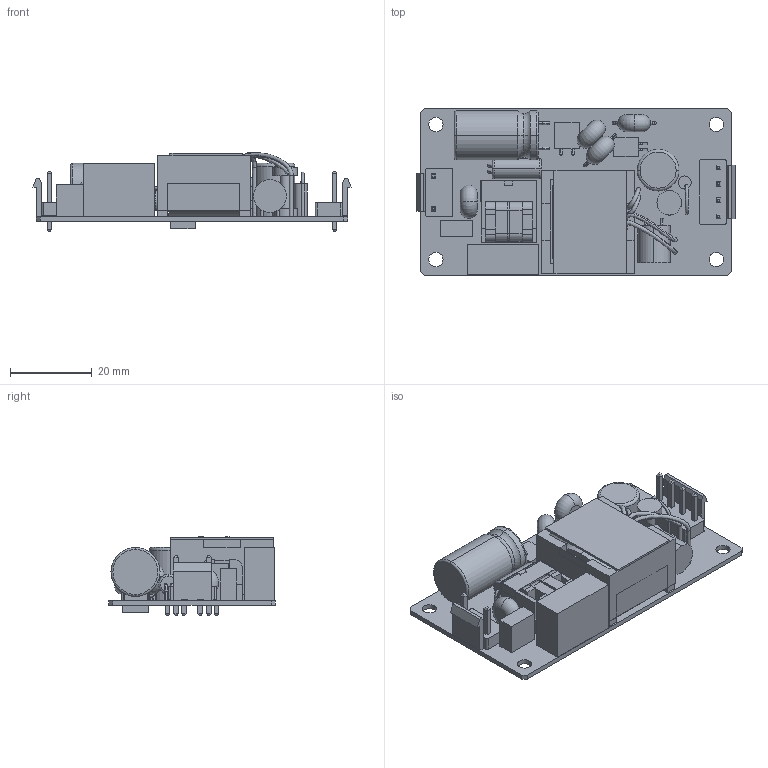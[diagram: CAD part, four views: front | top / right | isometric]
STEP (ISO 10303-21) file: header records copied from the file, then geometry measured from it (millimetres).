
FILE_DESCRIPTION (( 'STEP AP203' ), '1' );
FILE_NAME ('CFM21M-T.STEP', '2016-12-22T00:50:51', ( 'cincon' ), ( '' ), 'SwSTEP 2.0', 'SolidWorks 2016', '' );
FILE_SCHEMA (( 'CONFIG_CONTROL_DESIGN' ));
Length unit declared in the file: millimetre
Products named in the file (4): CFM21M-T; 1215CFM21-S; 3 PIN插座(底)-981022; 4 PIN插座(底)-981022
Assembly tree (3 placements, depth 2):
  CFM21M-T
    1215CFM21-S
    3 PIN插座(底)-981022
    4 PIN插座(底)-981022
Bounding box: 77.75 x 40.64 x 19.4 mm (x, y, z)
Volume: 19969.4 mm3; surface area: 17520.5 mm2
Topology: 4 solids, 4 shells, 559 faces, 1477 edges, 941 vertices
Faces by surface type: plane 362, cylinder 105, bspline 50, torus 42
Entity records: 29373 total; most frequent: CARTESIAN_POINT 15364, ORIENTED_EDGE 2954, DIRECTION 2626, EDGE_CURVE 1477, LINE 974, VECTOR 974, VERTEX_POINT 941, AXIS2_PLACEMENT_3D 826
